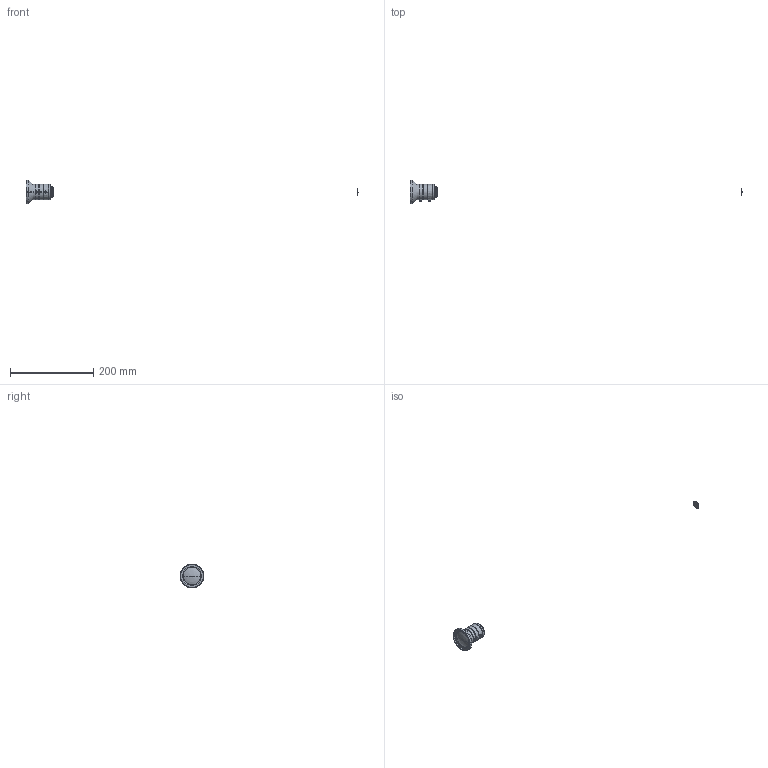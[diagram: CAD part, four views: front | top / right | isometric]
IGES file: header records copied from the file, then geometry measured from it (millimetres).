
Start section: SolidWorks IGES file using analytic representation for surfaces
Bounding box: 799.26 x 57.5 x 57.5 mm (x, y, z)
Surface area: 14424.6 mm2 (no closed solid volume)
Topology: 0 solids, 0 shells, 127 faces, 2136 edges, 2135 vertices
Faces by surface type: revolution 110, bspline 17
